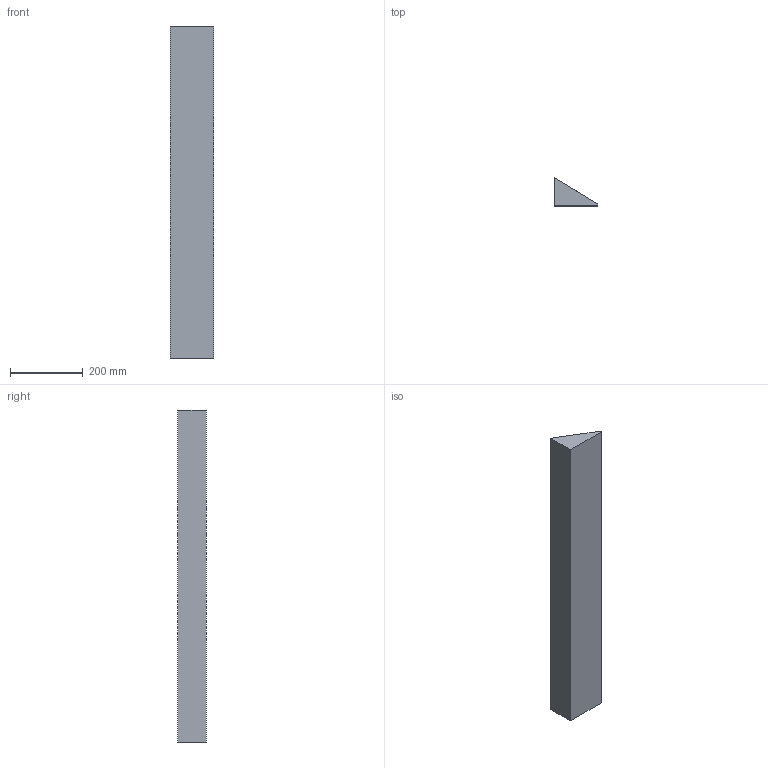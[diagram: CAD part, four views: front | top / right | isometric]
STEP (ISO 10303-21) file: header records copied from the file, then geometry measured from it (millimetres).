
FILE_DESCRIPTION (( 'STEP AP203' ), '1' );
FILE_NAME ('RF3-55-MR.STEP', '2024-03-25T11:08:57', ( '' ), ( '' ), 'SwSTEP 2.0', 'SolidWorks 2021', '' );
FILE_SCHEMA (( 'CONFIG_CONTROL_DESIGN' ));
Length unit declared in the file: millimetre
Products named in the file (1): RF3-55-MR
Bounding box: 120 x 77 x 910 mm (x, y, z)
Volume: 4393393.5 mm3; surface area: 339829.5 mm2
Topology: 1 solids, 1 shells, 124 faces, 333 edges, 222 vertices
Faces by surface type: plane 87, bspline 37
Entity records: 5964 total; most frequent: CARTESIAN_POINT 3029, ORIENTED_EDGE 666, DIRECTION 435, EDGE_CURVE 333, VECTOR 259, LINE 259, VERTEX_POINT 222, EDGE_LOOP 135
